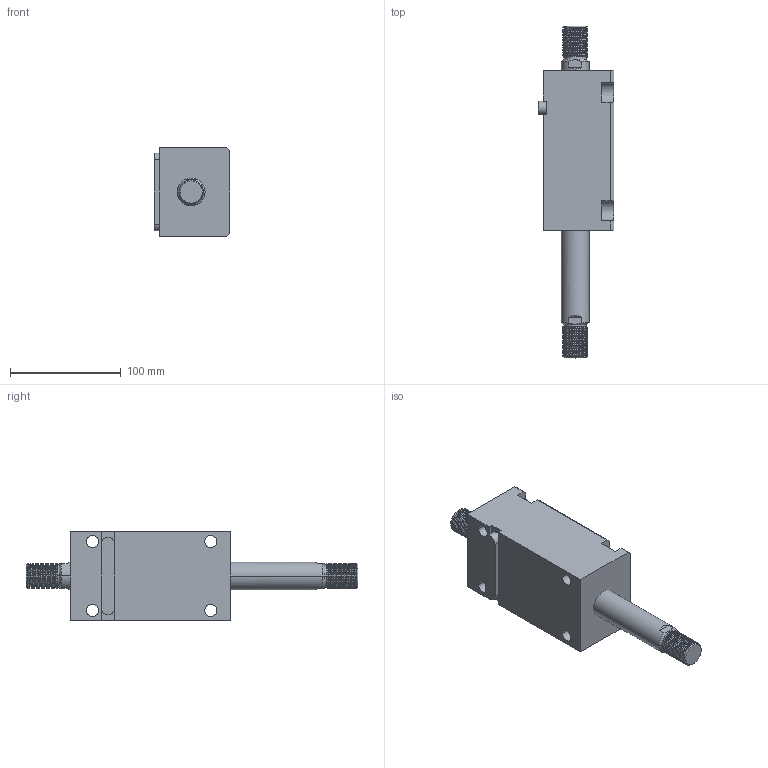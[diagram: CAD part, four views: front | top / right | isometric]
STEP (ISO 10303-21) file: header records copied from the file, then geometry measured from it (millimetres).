
FILE_DESCRIPTION (( 'STEP AP214' ), '1' );
FILE_NAME ('chtb-lw40x75w_asm.STEP', '2018-06-04T10:18:20', ( 'Windows' ), ( 'Microsoft' ), 'SwSTEP 2.0', 'SolidWorks 2015', '' );
FILE_SCHEMA (( 'AUTOMOTIVE_DESIGN' ));
Length unit declared in the file: millimetre
Products named in the file (5): CHTB-LW40X75NBT; CHTB-LA40PJ; chtb-lw40x75w_asm; CHTB-SW40X75NHSG; CHTB-SD40QG
Assembly tree (4 placements, depth 2):
  chtb-lw40x75w_asm
    CHTB-LA40PJ
    CHTB-LW40X75NBT
    CHTB-SD40QG
    CHTB-SW40X75NHSG
Bounding box: 68.5 x 300 x 80 mm (x, y, z)
Volume: 716148.5 mm3; surface area: 119712 mm2
Topology: 4 solids, 4 shells, 258 faces, 711 edges, 473 vertices
Faces by surface type: cylinder 152, plane 59, bspline 18, cone 17, torus 12
Entity records: 17539 total; most frequent: CARTESIAN_POINT 11292, ORIENTED_EDGE 1410, DIRECTION 1124, EDGE_CURVE 705, VERTEX_POINT 473, AXIS2_PLACEMENT_3D 433, EDGE_LOOP 292, ADVANCED_FACE 258
